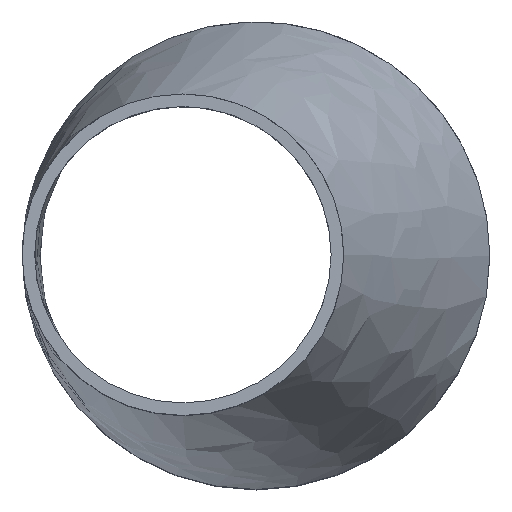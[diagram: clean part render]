
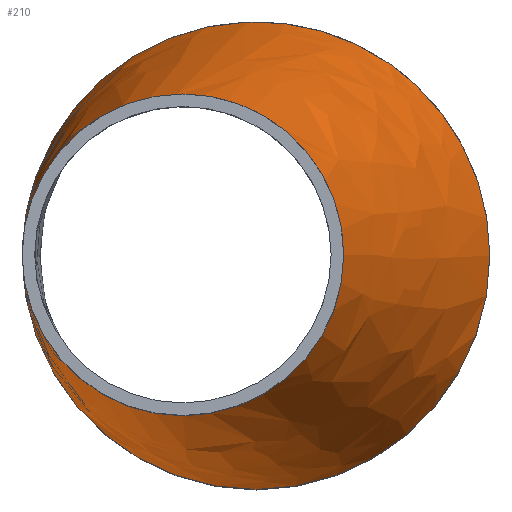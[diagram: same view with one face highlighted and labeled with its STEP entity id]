
A CAD part, top view. The second image highlights one B-rep face of the part: STEP entity #210.
In plain terms, the highlighted free-form (B-spline) face has degree [1, 2] with [2, 9] control points.
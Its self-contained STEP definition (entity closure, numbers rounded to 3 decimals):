
#15=B_SPLINE_CURVE_WITH_KNOTS($,1,(#401,#402),.UNSPECIFIED.,.F.,.F.,(2,
2),(-1.587,0.),.UNSPECIFIED.);
#17=(
BOUNDED_SURFACE()
B_SPLINE_SURFACE(1,2,((#379,#380,#381,#382,#383,#384,#385,#386,#387),(#388,
#389,#390,#391,#392,#393,#394,#395,#396)),.UNSPECIFIED.,.F.,.T.,.F.)
B_SPLINE_SURFACE_WITH_KNOTS((2,2),(3,2,2,2,3),(-0.205,1.718),
(-3.142,-1.571,0.,1.571,3.142),
 .UNSPECIFIED.)
GEOMETRIC_REPRESENTATION_ITEM()
RATIONAL_B_SPLINE_SURFACE(((1.,0.707,1.,0.707,1.,
0.707,1.,0.707,1.),(1.,0.707,1.,0.707,
1.,0.707,1.,0.707,1.)))
REPRESENTATION_ITEM($)
SURFACE()
);
#47=FACE_OUTER_BOUND($,#67,.T.);
#67=EDGE_LOOP($,(#167,#168,#169,#170,#171,#172));
#83=CIRCLE($,#231,80.);
#84=CIRCLE($,#232,80.);
#93=CIRCLE($,#243,55.);
#94=CIRCLE($,#244,55.);
#103=VERTEX_POINT($,#337);
#104=VERTEX_POINT($,#338);
#113=VERTEX_POINT($,#397);
#114=VERTEX_POINT($,#398);
#123=EDGE_CURVE($,#103,#104,#83,.T.);
#124=EDGE_CURVE($,#104,#103,#84,.T.);
#134=EDGE_CURVE($,#113,#114,#93,.T.);
#135=EDGE_CURVE($,#114,#113,#94,.T.);
#136=EDGE_CURVE($,#114,#104,#15,.T.);
#167=ORIENTED_EDGE($,*,*,#134,.F.);
#168=ORIENTED_EDGE($,*,*,#135,.F.);
#169=ORIENTED_EDGE($,*,*,#136,.T.);
#170=ORIENTED_EDGE($,*,*,#123,.F.);
#171=ORIENTED_EDGE($,*,*,#124,.F.);
#172=ORIENTED_EDGE($,*,*,#136,.F.);
#210=ADVANCED_FACE($,(#47),#17,.F.);
#231=AXIS2_PLACEMENT_3D($,#339,#278,#279);
#232=AXIS2_PLACEMENT_3D($,#340,#280,#281);
#243=AXIS2_PLACEMENT_3D($,#399,#302,#303);
#244=AXIS2_PLACEMENT_3D($,#400,#304,#305);
#278=DIRECTION('center_axis',(0.,0.,-1.));
#279=DIRECTION('ref_axis',(-1.,0.,0.));
#280=DIRECTION('center_axis',(0.,0.,-1.));
#281=DIRECTION('ref_axis',(-1.,0.,0.));
#302=DIRECTION('center_axis',(0.,0.,1.));
#303=DIRECTION('ref_axis',(-1.,0.,0.));
#304=DIRECTION('center_axis',(0.,0.,1.));
#305=DIRECTION('ref_axis',(-1.,0.,0.));
#337=CARTESIAN_POINT('',(80.,0.,94.));
#338=CARTESIAN_POINT('',(-3.104,79.94,94.));
#339=CARTESIAN_POINT('Origin',(0.,0.,94.));
#340=CARTESIAN_POINT('Origin',(0.,0.,94.));
#379=CARTESIAN_POINT('Ctrl Pts',(0.,83.166,
78.243));
#380=CARTESIAN_POINT('Ctrl Pts',(-80.,83.166,62.485));
#381=CARTESIAN_POINT('Ctrl Pts',(-80.,0.,62.485));
#382=CARTESIAN_POINT('Ctrl Pts',(-80.,-83.166,62.485));
#383=CARTESIAN_POINT('Ctrl Pts',(0.,-83.166,
78.243));
#384=CARTESIAN_POINT('Ctrl Pts',(80.,-83.166,94.));
#385=CARTESIAN_POINT('Ctrl Pts',(80.,0.,94.));
#386=CARTESIAN_POINT('Ctrl Pts',(80.,83.166,94.));
#387=CARTESIAN_POINT('Ctrl Pts',(0.,83.166,
78.243));
#388=CARTESIAN_POINT('Ctrl Pts',(-29.129,52.884,226.131));
#389=CARTESIAN_POINT('Ctrl Pts',(-80.,52.884,216.111));
#390=CARTESIAN_POINT('Ctrl Pts',(-80.,0.,216.111));
#391=CARTESIAN_POINT('Ctrl Pts',(-80.,-52.884,216.111));
#392=CARTESIAN_POINT('Ctrl Pts',(-29.129,-52.884,226.131));
#393=CARTESIAN_POINT('Ctrl Pts',(21.741,-52.884,236.151));
#394=CARTESIAN_POINT('Ctrl Pts',(21.741,0.,
236.151));
#395=CARTESIAN_POINT('Ctrl Pts',(21.741,52.884,236.151));
#396=CARTESIAN_POINT('Ctrl Pts',(-29.129,52.884,226.131));
#397=CARTESIAN_POINT('',(30.,0.,216.));
#398=CARTESIAN_POINT('',(-27.134,54.959,216.));
#399=CARTESIAN_POINT('Origin',(-25.,0.,216.));
#400=CARTESIAN_POINT('Origin',(-25.,0.,216.));
#401=CARTESIAN_POINT('Ctrl Pts',(-27.134,54.959,216.));
#402=CARTESIAN_POINT('Ctrl Pts',(-3.104,79.94,94.));
